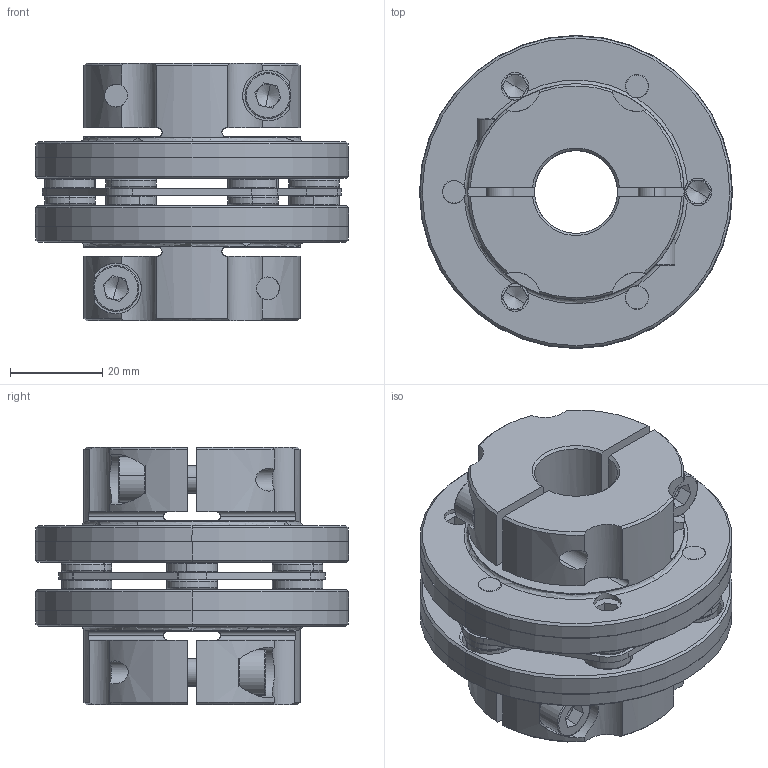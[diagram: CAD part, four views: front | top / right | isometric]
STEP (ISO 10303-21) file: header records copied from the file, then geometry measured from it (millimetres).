
FILE_DESCRIPTION (( 'STEP AP203' ), '1' );
FILE_NAME ('SCDS-68C-TYPE1(18X18).STEP', '2021-12-27T01:05:15', ( '' ), ( '' ), 'SwSTEP 2.0', 'SolidWorks 2021', '' );
FILE_SCHEMA (( 'CONFIG_CONTROL_DESIGN' ));
Length unit declared in the file: millimetre
Products named in the file (1): SCDS-68C-TYPE1(18X18)
Bounding box: 68 x 68 x 55.9 mm (x, y, z)
Volume: 97813.6 mm3; surface area: 40044.2 mm2
Topology: 1 solids, 19 shells, 725 faces, 1769 edges, 1082 vertices
Faces by surface type: cylinder 251, plane 212, cone 148, torus 114
Entity records: 22260 total; most frequent: CARTESIAN_POINT 4615, DIRECTION 4025, ORIENTED_EDGE 3498, EDGE_CURVE 1749, AXIS2_PLACEMENT_3D 1680, VERTEX_POINT 1082, CIRCLE 954, EDGE_LOOP 815
